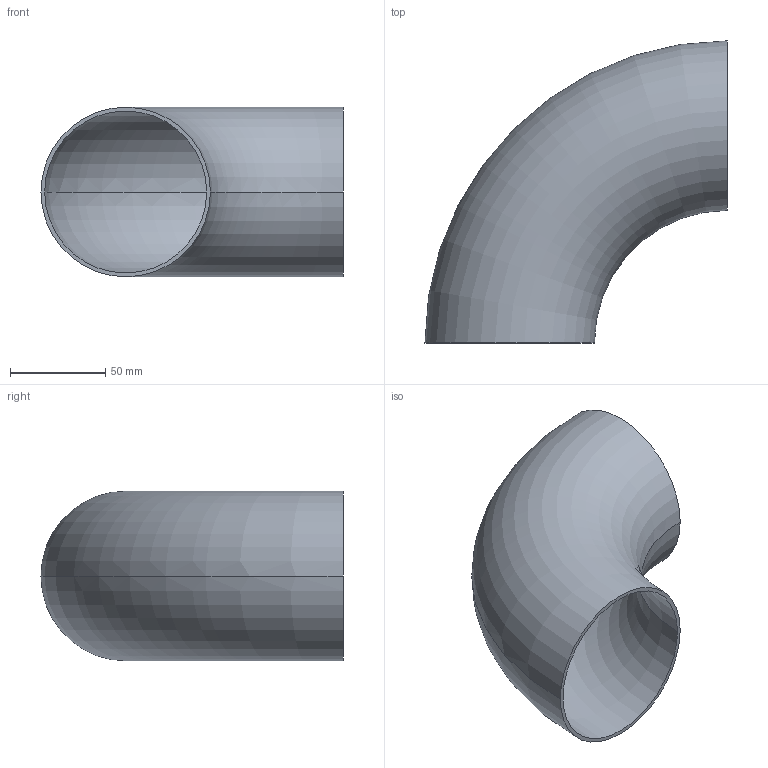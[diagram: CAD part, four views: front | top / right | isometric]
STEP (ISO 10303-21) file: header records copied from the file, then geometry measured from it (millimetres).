
FILE_DESCRIPTION (( 'STEP AP203' ), '1' );
FILE_NAME ('OT200-80-88_9x2_OSTP.step', '2020-12-16T02:38:06', ( '' ), ( '' ), 'SwSTEP 2.0', 'SolidWorks 2014', '' );
FILE_SCHEMA (( 'CONFIG_CONTROL_DESIGN' ));
Length unit declared in the file: millimetre
Products named in the file (1): OT200-80-88_9x2_OSTP
Bounding box: 158.45 x 158.45 x 88.9 mm (x, y, z)
Volume: 97774.2 mm3; surface area: 98866.2 mm2
Topology: 1 solids, 1 shells, 6 faces, 12 edges, 8 vertices
Faces by surface type: torus 4, plane 2
Entity records: 249 total; most frequent: DIRECTION 38, CARTESIAN_POINT 27, ORIENTED_EDGE 24, AXIS2_PLACEMENT_3D 19, EDGE_CURVE 12, CIRCLE 12, EDGE_LOOP 8, VERTEX_POINT 8
